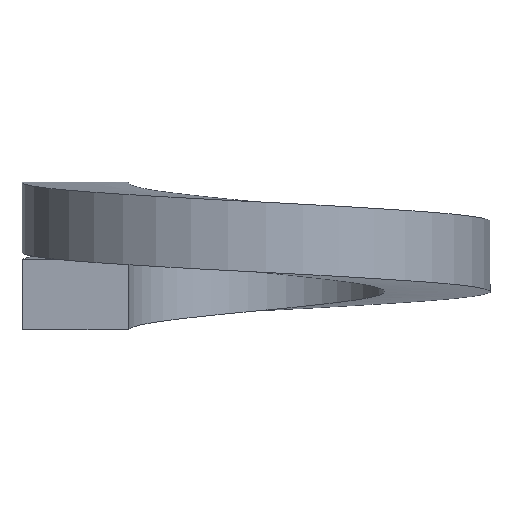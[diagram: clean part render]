
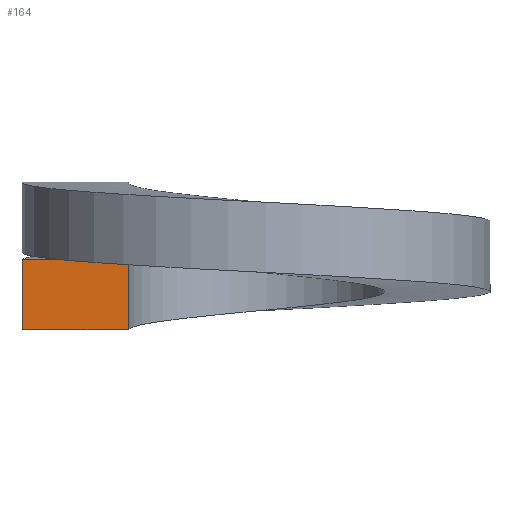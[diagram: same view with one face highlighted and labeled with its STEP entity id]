
A CAD part, left-side view. The second image highlights one B-rep face of the part: STEP entity #164.
In plain terms, the highlighted planar face has unit normal (-0.998, 0.063, 0).
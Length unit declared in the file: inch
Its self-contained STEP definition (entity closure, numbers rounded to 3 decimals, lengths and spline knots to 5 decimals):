
#4 = B_SPLINE_CURVE_WITH_KNOTS ( 'NONE', 3,
 ( #362, #142, #45, #175 ),
 .UNSPECIFIED., .F., .F.,
 ( 4, 4 ),
 ( 0., 1. ),
 .UNSPECIFIED. ) ;
#9 = ORIENTED_EDGE ( 'NONE', *, *, #103, .T. ) ;
#18 = CARTESIAN_POINT ( 'NONE',  ( 0.00499, 0.07924, -0.00281 ) ) ;
#23 = CARTESIAN_POINT ( 'NONE',  ( 0.00321, 0.05108, -0.03081 ) ) ;
#45 = CARTESIAN_POINT ( 'NONE',  ( 0.00587, 0.09332, -0.02148 ) ) ;
#47 = CARTESIAN_POINT ( 'NONE',  ( 0.00587, 0.09332, -0.03081 ) ) ;
#51 = VERTEX_POINT ( 'NONE', #47 ) ;
#85 = CARTESIAN_POINT ( 'NONE',  ( 0.00587, 0.09332, -0.00281 ) ) ;
#103 = EDGE_CURVE ( 'NONE', #304, #51, #4, .T. ) ;
#104 = ORIENTED_EDGE ( 'NONE', *, *, #256, .T. ) ;
#110 = ORIENTED_EDGE ( 'NONE', *, *, #315, .T. ) ;
#122 = CARTESIAN_POINT ( 'NONE',  ( 0.00321, 0.05108, -0.03081 ) ) ;
#142 = CARTESIAN_POINT ( 'NONE',  ( 0.00587, 0.09332, -0.01215 ) ) ;
#147 = CARTESIAN_POINT ( 'NONE',  ( 0.00321, 0.05108, -0.03081 ) ) ;
#148 = AXIS2_PLACEMENT_3D ( 'NONE', #157, #371, #233 ) ;
#151 = ORIENTED_EDGE ( 'NONE', *, *, #244, .T. ) ;
#153 = CARTESIAN_POINT ( 'NONE',  ( 0.00321, 0.05108, -0.02148 ) ) ;
#157 = CARTESIAN_POINT ( 'NONE',  ( 0.00388, 0.06164, -0.00281 ) ) ;
#164 = ADVANCED_FACE ( 'NONE', ( #418 ), #288, .F. ) ;
#175 = CARTESIAN_POINT ( 'NONE',  ( 0.00587, 0.09332, -0.03081 ) ) ;
#188 = B_SPLINE_CURVE_WITH_KNOTS ( 'NONE', 3,
 ( #281, #191, #247, #147 ),
 .UNSPECIFIED., .F., .F.,
 ( 4, 4 ),
 ( 0., 1. ),
 .UNSPECIFIED. ) ;
#191 = CARTESIAN_POINT ( 'NONE',  ( 0.00499, 0.07924, -0.03081 ) ) ;
#195 = CARTESIAN_POINT ( 'NONE',  ( 0.00587, 0.09332, -0.00281 ) ) ;
#198 = B_SPLINE_CURVE_WITH_KNOTS ( 'NONE', 3,
 ( #415, #303, #18, #85 ),
 .UNSPECIFIED., .F., .F.,
 ( 4, 4 ),
 ( 0., 1. ),
 .UNSPECIFIED. ) ;
#224 = EDGE_LOOP ( 'NONE', ( #151, #9, #104, #110 ) ) ;
#233 = DIRECTION ( 'NONE',  ( 0.063, 0.998, 0. ) ) ;
#244 = EDGE_CURVE ( 'NONE', #399, #304, #198, .T. ) ;
#247 = CARTESIAN_POINT ( 'NONE',  ( 0.0041, 0.06516, -0.03081 ) ) ;
#253 = CARTESIAN_POINT ( 'NONE',  ( 0.00321, 0.05108, -0.01215 ) ) ;
#254 = CARTESIAN_POINT ( 'NONE',  ( 0.00321, 0.05108, -0.00281 ) ) ;
#256 = EDGE_CURVE ( 'NONE', #51, #391, #188, .T. ) ;
#281 = CARTESIAN_POINT ( 'NONE',  ( 0.00587, 0.09332, -0.03081 ) ) ;
#288 = PLANE ( 'NONE',  #148 ) ;
#303 = CARTESIAN_POINT ( 'NONE',  ( 0.0041, 0.06516, -0.00281 ) ) ;
#304 = VERTEX_POINT ( 'NONE', #195 ) ;
#307 = CARTESIAN_POINT ( 'NONE',  ( 0.00321, 0.05108, -0.00281 ) ) ;
#315 = EDGE_CURVE ( 'NONE', #391, #399, #368, .T. ) ;
#362 = CARTESIAN_POINT ( 'NONE',  ( 0.00587, 0.09332, -0.00281 ) ) ;
#368 = B_SPLINE_CURVE_WITH_KNOTS ( 'NONE', 3,
 ( #23, #153, #253, #307 ),
 .UNSPECIFIED., .F., .F.,
 ( 4, 4 ),
 ( 0., 1. ),
 .UNSPECIFIED. ) ;
#371 = DIRECTION ( 'NONE',  ( 0.998, -0.063, 0. ) ) ;
#391 = VERTEX_POINT ( 'NONE', #122 ) ;
#399 = VERTEX_POINT ( 'NONE', #254 ) ;
#415 = CARTESIAN_POINT ( 'NONE',  ( 0.00321, 0.05108, -0.00281 ) ) ;
#418 = FACE_OUTER_BOUND ( 'NONE', #224, .T. ) ;
